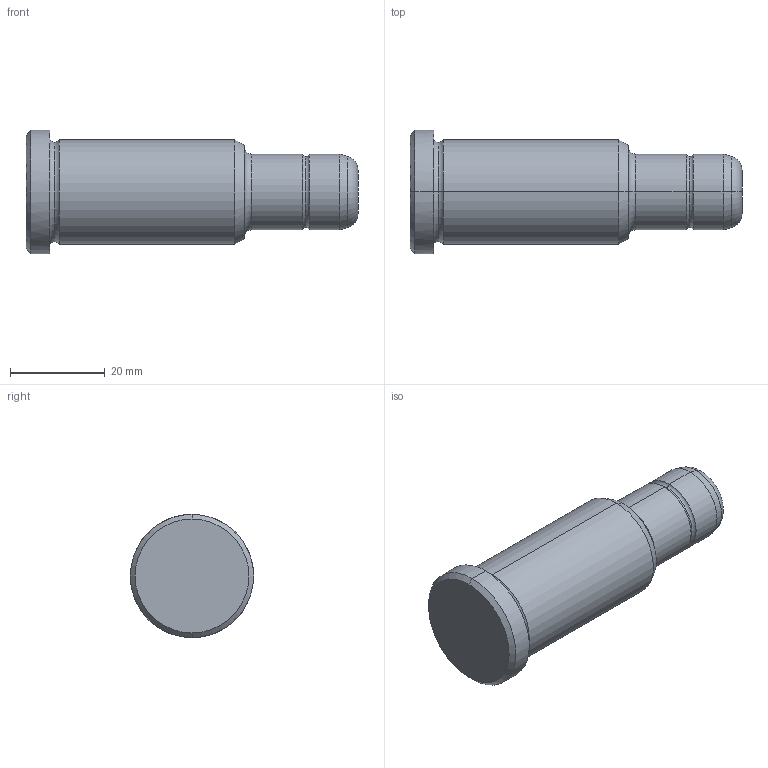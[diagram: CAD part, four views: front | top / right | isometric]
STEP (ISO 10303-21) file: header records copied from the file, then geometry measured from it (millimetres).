
FILE_DESCRIPTION(('CATIA V5 STEP Exchange'),'2;1');
FILE_NAME('C:\Users\Utente\Desktop\IO LAVORO\3D X SITO CF\X SITO\PLASTICA\351\351-16X46X70.stp','2021-08-18T11:25:45+00:00',('none'),('none'),'CATIA Version 5 Release 20 GA (IN-10)','CATIA V5 STEP AP203','none');
FILE_SCHEMA(('CONFIG_CONTROL_DESIGN'));
Length unit declared in the file: millimetre
Products named in the file (1): 351-16X46X70
Bounding box: 70 x 26 x 26 mm (x, y, z)
Volume: 22754 mm3; surface area: 5313.5 mm2
Topology: 1 solids, 1 shells, 30 faces, 86 edges, 60 vertices
Faces by surface type: torus 12, cylinder 8, cone 6, plane 4
Entity records: 1112 total; most frequent: CARTESIAN_POINT 289, ORIENTED_EDGE 172, DIRECTION 138, AXIS2_PLACEMENT_3D 95, EDGE_CURVE 86, CIRCLE 64, VERTEX_POINT 60, EDGE_LOOP 32
